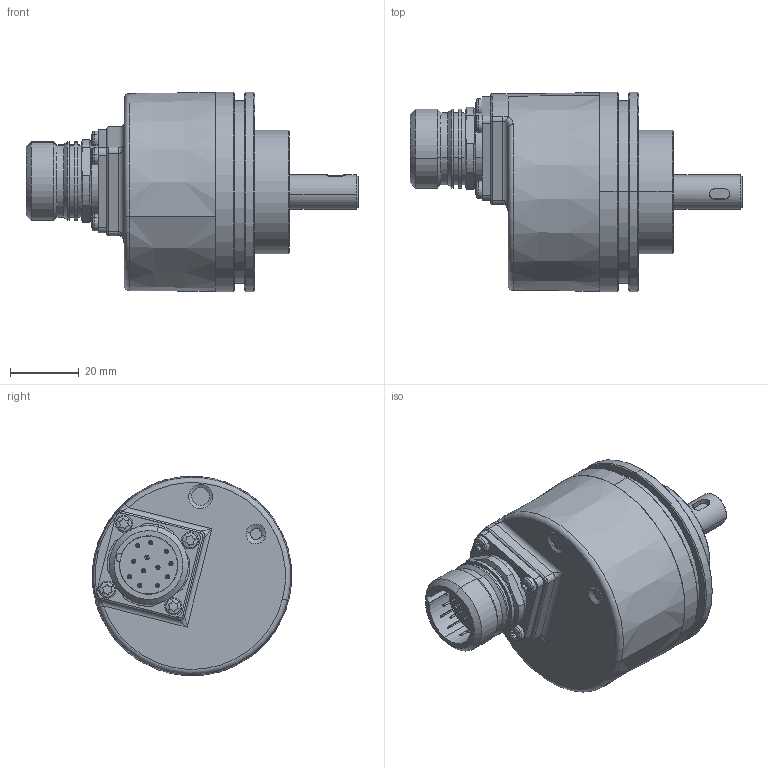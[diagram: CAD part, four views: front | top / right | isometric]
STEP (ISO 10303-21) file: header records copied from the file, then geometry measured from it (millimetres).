
FILE_DESCRIPTION (( 'STEP AP214' ), '1' );
FILE_NAME ('5814SIL.1AX3.XXXX.STEP', '2010-07-22T06:39:34', ( 'admin' ), ( 'Fritz Kübler GmbH' ), 'SwSTEP 2.0', 'SolidWorks 2009', '' );
FILE_SCHEMA (( 'AUTOMOTIVE_DESIGN' ));
Length unit declared in the file: millimetre
Products named in the file (1): 5814SIL.1AX3.XXXX
Bounding box: 96.5 x 58 x 58 mm (x, y, z)
Surface area: 22025.4 mm2 (no closed solid volume)
Topology: 0 solids, 32 shells, 338 faces, 883 edges, 557 vertices
Faces by surface type: cylinder 140, plane 88, cone 42, sphere 32, torus 30, bspline 6
Entity records: 15104 total; most frequent: CARTESIAN_POINT 2880, DIRECTION 2019, ORIENTED_EDGE 1548, EDGE_CURVE 857, AXIS2_PLACEMENT_3D 855, VERTEX_POINT 557, CIRCLE 522, EDGE_LOOP 387
